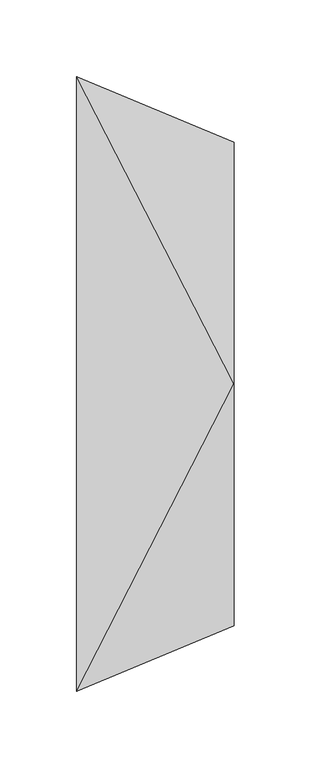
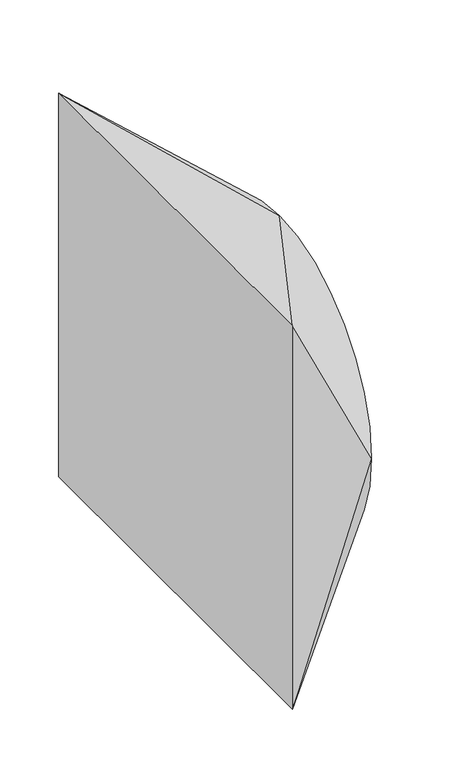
"""IFC4 building model written with IfcOpenShell, lengths in millimetres: duct fitting geometry, M_Transição retangular para oval - Ângulo : 45 Graus."""

from ifc_helpers import new_model, si_unit, frame, origin, place, context, project, spatial, circle_curve, source, transform, mapped, element, save
from ifc_brep_helpers import plane_surface, spline_surface, advanced_brep


def duct_fitting_39c6a66e(model_context):
    return source(origin(), model_context, "Body", "AdvancedBrep", [
        advanced_brep(
        [(102.6040764, 0.0, 157.5), (102.6040764, -157.5, 0.0), (102.6040764, 0.0, -157.5), (102.6040764, 157.5, 0.0), (0.0, -200.0, 200.0), (0.0, 200.0, 200.0), (0.0, 200.0, -200.0), (0.0, -200.0, -200.0)],
        [
            (0, 1, circle_curve(frame((102.6040764, 0.0, 0.0), z_axis=(1.0, 0.0, 0.0), x_axis=(0.0, 1.0, 0.0)), 157.5)),
            (1, 2, circle_curve(frame((102.6040764, 0.0, 0.0), z_axis=(1.0, 0.0, 0.0), x_axis=(0.0, 1.0, 0.0)), 157.5)),
            (2, 3, circle_curve(frame((102.6040764, 0.0, 0.0), z_axis=(1.0, 0.0, 0.0), x_axis=(0.0, 1.0, 0.0)), 157.5)),
            (3, 0, circle_curve(frame((102.6040764, 0.0, 0.0), z_axis=(1.0, 0.0, 0.0), x_axis=(0.0, 1.0, 0.0)), 157.5)),
            (4, 5),
            (5, 6),
            (6, 7),
            (7, 4),
            (0, 4),
            (4, 1),
            (7, 1),
            (7, 2),
            (6, 2),
            (6, 3),
            (5, 3),
            (5, 0),
        ],
        [
            plane_surface(frame((102.6040764, 0.0, 0.0), z_axis=(1.0, 0.0, 0.0), x_axis=(0.0, 0.0, -1.0))),
            plane_surface(frame((0.0, 0.0, 0.0), z_axis=(-1.0, 0.0, 0.0), x_axis=(0.0, 0.0, -1.0))),
            spline_surface(2, 1, [[(0.0, -200.0, 200.0), (102.6040764, 0.0, 157.5)], [(0.0, -200.0, 200.0), (102.6040764, -157.5, 157.5)], [(0.0, -200.0, 200.0), (102.6040764, -157.5, 0.0)]], [3, 3], [2, 2], [0.0, 1.0], [0.0, 1.0], weights=[[1.0, 1.0], [0.7071067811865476, 0.7071067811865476], [1.0, 1.0]]),
            plane_surface(frame((0.0, -200.0, 0.0), z_axis=(0.38268343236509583, -0.9238795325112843, 0.0), x_axis=(0.0, 0.0, -1.0))),
            spline_surface(2, 1, [[(0.0, -200.0, -200.0), (102.6040764, -157.5, 0.0)], [(0.0, -200.0, -200.0), (102.6040764, -157.5, -157.5)], [(0.0, -200.0, -200.0), (102.6040764, 0.0, -157.5)]], [3, 3], [2, 2], [0.0, 1.0], [0.0, 1.0], weights=[[1.0, 1.0], [0.7071067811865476, 0.7071067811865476], [1.0, 1.0]]),
            plane_surface(frame((0.0, 0.0, -200.0), z_axis=(0.3826834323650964, 0.0, -0.9238795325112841), x_axis=(0.0, 1.0, 0.0))),
            spline_surface(2, 1, [[(0.0, 200.0, -200.0), (102.6040764, 0.0, -157.5)], [(0.0, 200.0, -200.0), (102.6040764, 157.5, -157.5)], [(0.0, 200.0, -200.0), (102.6040764, 157.5, 0.0)]], [3, 3], [2, 2], [0.0, 1.0], [0.0, 1.0], weights=[[1.0, 1.0], [0.7071067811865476, 0.7071067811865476], [1.0, 1.0]]),
            plane_surface(frame((0.0, 200.0, 0.0), z_axis=(0.3826834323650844, 0.9238795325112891, 0.0), x_axis=(0.0, 0.0, 1.0))),
            spline_surface(2, 1, [[(0.0, 200.0, 200.0), (102.6040764, 157.5, 0.0)], [(0.0, 200.0, 200.0), (102.6040764, 157.5, 157.5)], [(0.0, 200.0, 200.0), (102.6040764, 0.0, 157.5)]], [3, 3], [2, 2], [0.0, 1.0], [0.0, 1.0], weights=[[1.0, 1.0], [0.7071067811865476, 0.7071067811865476], [1.0, 1.0]]),
            plane_surface(frame((0.0, 0.0, 200.0), z_axis=(0.38268343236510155, 0.0, 0.9238795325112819), x_axis=(0.0, -1.0, 0.0))),
        ],
        [
            (0, [[1, 2, 3, 4]]),
            (1, [[5, 6, 7, 8]]),
            (2, [[-1, 9, 10]]),
            (3, [[-8, 11, -10]]),
            (4, [[-2, -11, 12]]),
            (5, [[-7, 13, -12]]),
            (6, [[-3, -13, 14]]),
            (7, [[-6, 15, -14]]),
            (8, [[-4, -15, 16]]),
            (9, [[-5, -9, -16]]),
        ],
    ),
    ])


if __name__ == "__main__":
    model = new_model("IFC4")
    model_context = context("Model", 3, world=origin())
    ifc_project = project(units=[si_unit("LENGTHUNIT", "METRE", prefix="MILLI")], contexts=[model_context])
    site = spatial("IfcSite", under=ifc_project)
    building = spatial("IfcBuilding", under=site)
    placement = place(None, origin())
    duct_fitting_shape = duct_fitting_39c6a66e(model_context)
    element("IfcDuctFitting", 1, ObjectType="M_Transição retangular para oval - Ângulo : 45 Graus", at=placement, inside=building, context=model_context, shape_type="MappedRepresentation", body=[
        mapped(duct_fitting_shape, transform((0.0, 0.0, 0.0), x_axis=(1.0, 0.0, 0.0), y_axis=(0.0, 1.0, 0.0), z_axis=(0.0, 0.0, 1.0))),
    ])
    save(model, "model.ifc")
